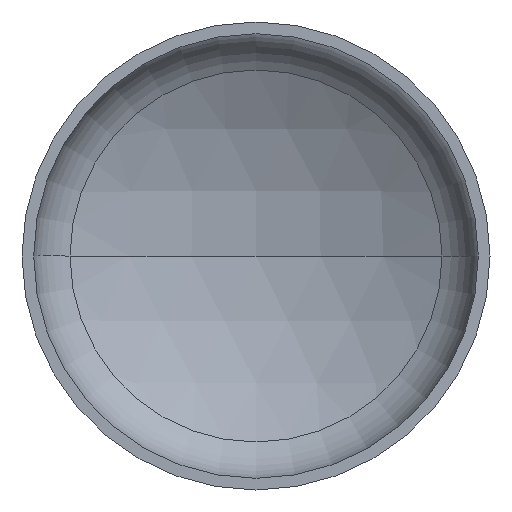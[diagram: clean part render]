
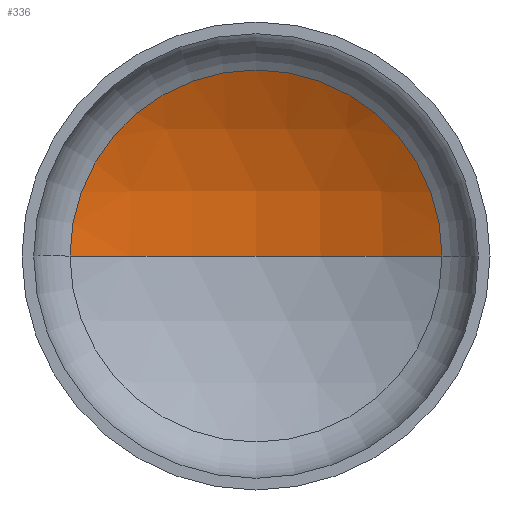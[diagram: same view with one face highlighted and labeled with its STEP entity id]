
A CAD part, front view. The second image highlights one B-rep face of the part: STEP entity #336.
In plain terms, the highlighted spherical face has radius 2880 mm.
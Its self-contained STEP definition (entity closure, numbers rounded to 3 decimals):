
#1 = AXIS2_PLACEMENT_3D ( 'NONE', #23, #301, #179 ) ;
#4 = ORIENTED_EDGE ( 'NONE', *, *, #194, .F. ) ;
#7 = EDGE_LOOP ( 'NONE', ( #4, #355, #92 ) ) ;
#23 = CARTESIAN_POINT ( 'NONE',  ( 0., -1917.821, 0. ) ) ;
#73 = AXIS2_PLACEMENT_3D ( 'NONE', #222, #218, #220 ) ;
#80 = AXIS2_PLACEMENT_3D ( 'NONE', #257, #287, #281 ) ;
#85 = AXIS2_PLACEMENT_3D ( 'NONE', #228, #395, #348 ) ;
#87 = VERTEX_POINT ( 'NONE', #256 ) ;
#90 = VERTEX_POINT ( 'NONE', #229 ) ;
#92 = ORIENTED_EDGE ( 'NONE', *, *, #190, .T. ) ;
#122 = VERTEX_POINT ( 'NONE', #323 ) ;
#179 = DIRECTION ( 'NONE',  ( -1., 0., 0. ) ) ;
#190 = EDGE_CURVE ( 'NONE', #122, #87, #203, .T. ) ;
#193 = EDGE_CURVE ( 'NONE', #90, #122, #196, .T. ) ;
#194 = EDGE_CURVE ( 'NONE', #90, #87, #322, .T. ) ;
#196 = CIRCLE ( 'NONE', #73, 2880. ) ;
#203 = CIRCLE ( 'NONE', #85, 1430.71 ) ;
#218 = DIRECTION ( 'NONE',  ( 0., 0., -1. ) ) ;
#220 = DIRECTION ( 'NONE',  ( -1., 0., 0. ) ) ;
#222 = CARTESIAN_POINT ( 'NONE',  ( 0., -1917.821, 0. ) ) ;
#228 = CARTESIAN_POINT ( 'NONE',  ( 0., 581.673, 0. ) ) ;
#229 = CARTESIAN_POINT ( 'NONE',  ( 0., 962.179, 0. ) ) ;
#256 = CARTESIAN_POINT ( 'NONE',  ( -1430.71, 581.673, 0. ) ) ;
#257 = CARTESIAN_POINT ( 'NONE',  ( 0., -1917.821, 0. ) ) ;
#281 = DIRECTION ( 'NONE',  ( 1., 0., 0. ) ) ;
#287 = DIRECTION ( 'NONE',  ( 0., 0., 1. ) ) ;
#297 = FACE_OUTER_BOUND ( 'NONE', #7, .T. ) ;
#301 = DIRECTION ( 'NONE',  ( 0., 0., -1. ) ) ;
#322 = CIRCLE ( 'NONE', #80, 2880. ) ;
#323 = CARTESIAN_POINT ( 'NONE',  ( 1430.71, 581.673, 0. ) ) ;
#336 = ADVANCED_FACE ( 'NONE', ( #297 ), #359, .F. ) ;
#348 = DIRECTION ( 'NONE',  ( 1., 0., 0. ) ) ;
#355 = ORIENTED_EDGE ( 'NONE', *, *, #193, .T. ) ;
#359 = SPHERICAL_SURFACE ( 'NONE', #1, 2880. ) ;
#395 = DIRECTION ( 'NONE',  ( 0., -1., 0. ) ) ;
